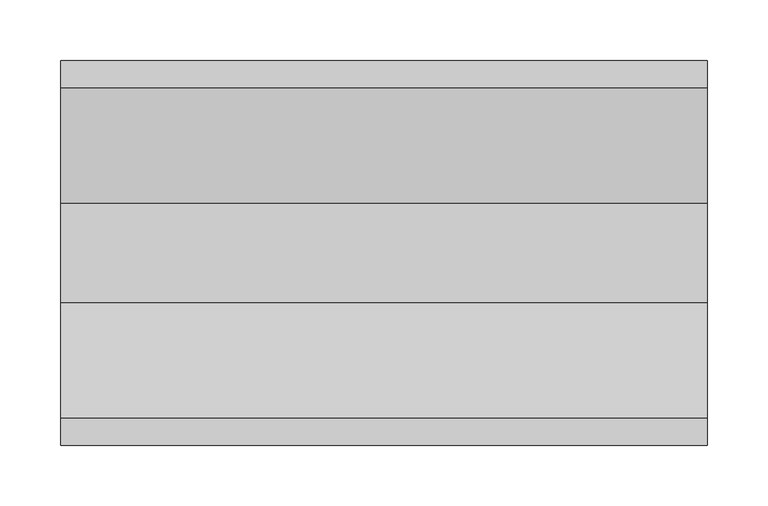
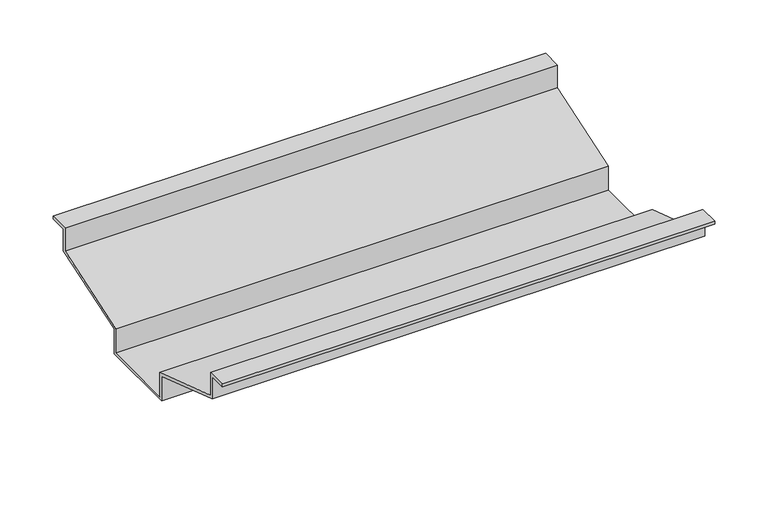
"""IFC4 building model written with IfcOpenShell, lengths in millimetres: furniture geometry."""

import ifcopenshell
import ifcopenshell.guid

model = None  # the IFC model being written
_history = None  # IfcOwnerHistory: only IFC2X3 demands one
_inside = {}  # id of a spatial element -> (the spatial element, [elements in it])
_under = {}  # id of a project, library or spatial element -> (it, [spatial elements below it])
_declared = {}  # id of a project -> (the project, [libraries it declares])
_typed = {}  # id of a type object -> (the type object, [elements of that type])
_made_of = {}  # id of a material, layer set ... -> (it, [elements and type objects made of it])


def new_model(schema):
    """Start an empty IFC model of exactly this schema.

    Asked for "IFC4X3", IfcOpenShell would pick the latest addendum, in which some entities
    have other attributes; the version numbers below select the first issue.
    IFC2X3 requires an IfcOwnerHistory on every rooted entity: one is made here for all.
    """
    global model, _history
    if schema == "IFC4X3":
        model = ifcopenshell.file(schema_version=(4, 3, 0, 0))
    else:
        model = ifcopenshell.file(schema=schema)
    _inside.clear()
    _under.clear()
    _declared.clear()
    _typed.clear()
    _made_of.clear()
    _history = None
    if model.schema == "IFC2X3":
        org = make("IfcOrganization", Name="unknown")
        user = make(
            "IfcPersonAndOrganization",
            ThePerson=make("IfcPerson", FamilyName="unknown"),
            TheOrganization=org,
        )
        app = make(
            "IfcApplication",
            ApplicationDeveloper=org,
            Version="unknown",
            ApplicationFullName="unknown",
            ApplicationIdentifier="unknown",
        )
        _history = make(
            "IfcOwnerHistory",
            OwningUser=user,
            OwningApplication=app,
            ChangeAction="ADDED",
            CreationDate=0,
        )
    return model


def make(cls, **values):
    """One entity of the class cls with the attributes given. An attribute that is None is left unset."""
    return model.create_entity(
        cls, **{name: value for name, value in values.items() if value is not None}
    )


def rooted(cls, **values):
    """An entity with a GlobalId (a new one), such as an element, a storey or a relation."""
    return make(cls, GlobalId=ifcopenshell.guid.new(), OwnerHistory=_history, **values)


def si_unit(unit_type, name, prefix=None):
    """IfcSIUnit, for example si_unit("LENGTHUNIT", "METRE", prefix="MILLI")."""
    return make("IfcSIUnit", UnitType=unit_type, Prefix=prefix, Name=name)


def assignment(units):
    """IfcUnitAssignment: the units of a project."""
    return None if units is None else make("IfcUnitAssignment", Units=units)


def point(xyz):
    """IfcCartesianPoint."""
    return None if xyz is None else make("IfcCartesianPoint", Coordinates=xyz)


def direction(xyz):
    """IfcDirection."""
    return None if xyz is None else make("IfcDirection", DirectionRatios=xyz)


def frame(location, z_axis=None, x_axis=None):
    """IfcAxis2Placement3D, a coordinate frame: its origin and axes. An axis left out is left unset."""
    return make(
        "IfcAxis2Placement3D",
        Location=point(location),
        Axis=direction(z_axis),
        RefDirection=direction(x_axis),
    )


def origin():
    """The frame at (0, 0, 0) with its axes left unset."""
    return frame((0.0, 0.0, 0.0))


def place(relative_to, where):
    """IfcLocalPlacement: puts the frame where relative to a parent placement (None: the world)."""
    return make(
        "IfcLocalPlacement", PlacementRelTo=relative_to, RelativePlacement=where
    )


def context(
    kind, dimensions, precision=None, world=None, true_north=None, identifier=None
):
    """IfcGeometricRepresentationContext, for example the 3D "Model" context."""
    return make(
        "IfcGeometricRepresentationContext",
        ContextIdentifier=identifier,
        ContextType=kind,
        CoordinateSpaceDimension=dimensions,
        Precision=precision,
        WorldCoordinateSystem=world,
        TrueNorth=true_north,
    )


def project(units=None, contexts=None):
    """IfcProject with its units and contexts."""
    return rooted(
        "IfcProject",
        Name="project",
        RepresentationContexts=contexts,
        UnitsInContext=assignment(units),
    )


def spatial(cls, under=None, at=None, **own):
    """A site, building, storey or space (cls), placed at a placement, below another one or the project."""
    s = rooted(cls, ObjectPlacement=at, **own)
    if under is not None:
        _under.setdefault(under.id(), (under, []))[1].append(s)
    return s


def polyline(points):
    """IfcPolyline through the points."""
    return make("IfcPolyline", Points=[point(p) for p in points])


def outline(outer, holes=None, kind="AREA"):
    """IfcArbitraryClosedProfileDef: a profile drawn as a closed curve; with holes, ...WithVoids."""
    if holes is None:
        return make("IfcArbitraryClosedProfileDef", ProfileType=kind, OuterCurve=outer)
    return make(
        "IfcArbitraryProfileDefWithVoids",
        ProfileType=kind,
        OuterCurve=outer,
        InnerCurves=holes,
    )


def extrude(swept, where, along, depth):
    """IfcExtrudedAreaSolid: the profile swept, set in the frame where, extruded along a direction by depth."""
    return make(
        "IfcExtrudedAreaSolid",
        SweptArea=swept,
        Position=where,
        ExtrudedDirection=direction(along),
        Depth=depth,
    )


def shape(context_of_items, identifier, shape_type, items):
    """IfcShapeRepresentation: the items that make up one representation, for example the "Body"."""
    return make(
        "IfcShapeRepresentation",
        ContextOfItems=context_of_items,
        RepresentationIdentifier=identifier,
        RepresentationType=shape_type,
        Items=items,
    )


def source(mapping_origin, context_of_items, identifier, shape_type, items):
    """IfcRepresentationMap: a shape defined once, which mapped items show again and again."""
    return make(
        "IfcRepresentationMap",
        MappingOrigin=mapping_origin,
        MappedRepresentation=shape(context_of_items, identifier, shape_type, items),
    )


def transform(
    local_origin,
    x_axis=None,
    y_axis=None,
    z_axis=None,
    scale=None,
    scale2=None,
    scale3=None,
    uniform=True,
):
    """IfcCartesianTransformationOperator3D, or its non-uniform kind. x_axis, y_axis, z_axis: its Axis1, 2, 3."""
    if uniform:
        return make(
            "IfcCartesianTransformationOperator3D",
            Axis1=direction(x_axis),
            Axis2=direction(y_axis),
            LocalOrigin=point(local_origin),
            Scale=scale,
            Axis3=direction(z_axis),
        )
    return make(
        "IfcCartesianTransformationOperator3DnonUniform",
        Axis1=direction(x_axis),
        Axis2=direction(y_axis),
        LocalOrigin=point(local_origin),
        Scale=scale,
        Axis3=direction(z_axis),
        Scale2=scale2,
        Scale3=scale3,
    )


def mapped(mapping_source, mapping_target):
    """IfcMappedItem: shows the shape of a source again, moved by a transform."""
    return make(
        "IfcMappedItem", MappingSource=mapping_source, MappingTarget=mapping_target
    )


def made_of(thing, what):
    """Note that an element or type object is made of a material, layer set ...; save() writes the relation."""
    if what is not None:
        _made_of.setdefault(what.id(), (what, []))[1].append(thing)
    return thing


def element(
    cls,
    number,
    at=None,
    inside=None,
    cuts=None,
    type_object=None,
    material=None,
    context=None,
    identifier="Body",
    shape_type=None,
    held_by="IfcProductDefinitionShape",
    body=None,
    shapes=None,
    **own,
):
    """One element of the class cls, such as IfcWall. Its Tag is "e" and its number.

    at: its placement. inside: the storey or other place that contains it. cuts: it is an
    opening in that element (IfcRelVoidsElement). A single representation is given by context,
    identifier, shape_type and body (its items); several are given by shapes. held_by: the class
    of the entity that holds the representations. save() writes the other relations.
    """
    e = rooted(cls, Tag="e%d" % number, ObjectPlacement=at, **own)
    if body is not None:
        shapes = [shape(context, identifier, shape_type, body)]
    if shapes is not None:
        e.Representation = make(held_by, Representations=shapes)
    if inside is not None:
        _inside.setdefault(inside.id(), (inside, []))[1].append(e)
    if cuts is not None:
        rooted(
            "IfcRelVoidsElement", RelatingBuildingElement=cuts, RelatedOpeningElement=e
        )
    if type_object is not None:
        _typed.setdefault(type_object.id(), (type_object, []))[1].append(e)
    return made_of(e, material)


def aggregate(whole, parts):
    """IfcRelAggregates: a whole, such as a stair, and the parts it consists of."""
    return rooted("IfcRelAggregates", RelatingObject=whole, RelatedObjects=parts)


def save(model, path):
    """Write the relations noted so far, then the file.

    IfcRelAggregates (storeys below a building ...), IfcRelContainedInSpatialStructure (elements
    in a storey), IfcRelDefinesByType, IfcRelAssociatesMaterial and IfcRelDeclares: one each for
    every whole, place, type object, material and project.
    """
    for whole, parts in _under.values():
        aggregate(whole, parts)
    for where, things in _inside.values():
        rooted(
            "IfcRelContainedInSpatialStructure",
            RelatedElements=things,
            RelatingStructure=where,
        )
    for kind, things in _typed.values():
        rooted("IfcRelDefinesByType", RelatedObjects=things, RelatingType=kind)
    for what, things in _made_of.values():
        rooted("IfcRelAssociatesMaterial", RelatedObjects=things, RelatingMaterial=what)
    for by, libraries in _declared.values():
        rooted("IfcRelDeclares", RelatingContext=by, RelatedDefinitions=libraries)
    model.write(path)


def furniture_9c7ec0bd(model_context):
    return source(origin(), model_context, "Body", "SweptSolid", [
        extrude(outline(polyline([(-123.825, 1054.1), (-123.825, 1027.8134105), (-28.575, 996.0634105), (-28.575, 968.375), (53.975, 968.375), (53.975, 996.0634105), (149.225, 1027.8134105), (149.225, 1054.1), (171.45, 1054.1), (171.45, 1050.925), (152.4, 1050.925), (152.4, 1025.525), (57.15, 993.775), (57.15, 965.2), (-31.75, 965.2), (-31.75, 993.775), (-127.0, 1025.525), (-127.0, 1050.925), (-146.05, 1050.925), (-146.05, 1054.1), (-123.825, 1054.1)])), frame((-266.7, 0.0, 0.0), z_axis=(1.0, 0.0, 0.0), x_axis=(0.0, 1.0, 0.0)), (0.0, 0.0, 1.0), 533.4),
    ])


if __name__ == "__main__":
    model = new_model("IFC4")
    model_context = context("Model", 3, world=origin())
    ifc_project = project(units=[si_unit("LENGTHUNIT", "METRE", prefix="MILLI")], contexts=[model_context])
    site = spatial("IfcSite", under=ifc_project)
    building = spatial("IfcBuilding", under=site)
    placement = place(None, origin())
    furniture_shape = furniture_9c7ec0bd(model_context)
    element("IfcFurniture", 1, ObjectType="HermanMiller_Ethospace_E2827_CounterTopSupport : 30\"W W/Light", at=placement, inside=building, context=model_context, shape_type="MappedRepresentation", body=[
        mapped(furniture_shape, transform((0.0, 0.0, 0.0), x_axis=(1.0, 0.0, 0.0), y_axis=(0.0, 1.0, 0.0), z_axis=(0.0, 0.0, 1.0))),
    ])
    save(model, "model.ifc")
